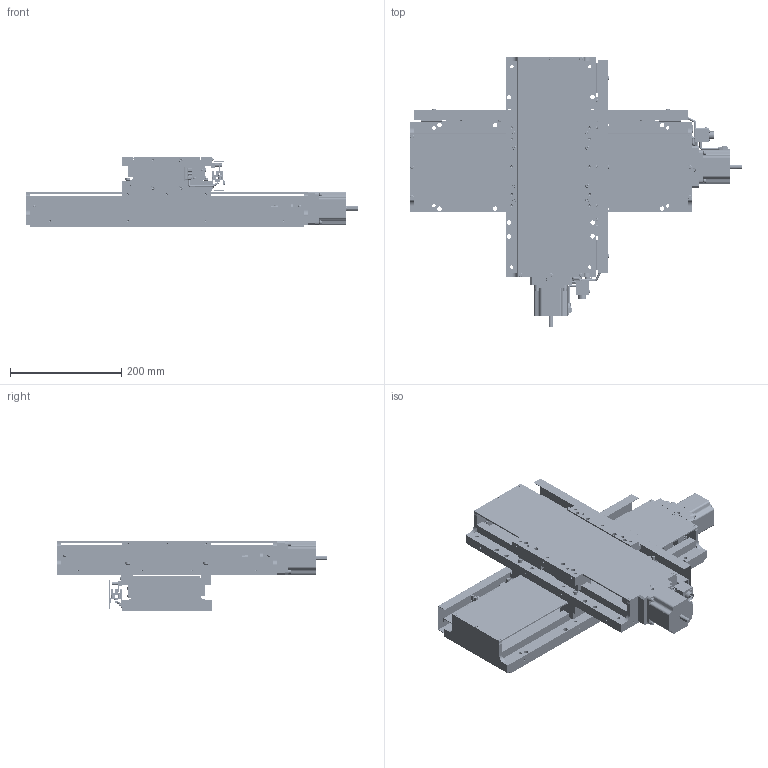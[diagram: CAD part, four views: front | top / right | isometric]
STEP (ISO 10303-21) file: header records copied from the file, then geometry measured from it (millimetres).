
FILE_DESCRIPTION( (''), '2;1');
FILE_NAME ('YA16F-L23201.stp','2021-01-05T15:28:23',(''),(''),'spGate 15.6.6','','');
FILE_SCHEMA (('AUTOMOTIVE_DESIGN'));
Length unit declared in the file: millimetre
Products named in the file (5): Assembly; YA16F-L23201-prt0; YA16F-L23201-prt1; YA16F-L23201-prt2; YA16F-L23201-prt3
Assembly tree (4 placements, depth 2):
  Assembly
    YA16F-L23201-prt0
    YA16F-L23201-prt1
    YA16F-L23201-prt2
    YA16F-L23201-prt3
Bounding box: 596.5 x 486.5 x 127 mm (x, y, z)
Volume: 4917660.9 mm3; surface area: 1162535.6 mm2
Topology: 4 solids, 4 shells, 5152 faces, 12831 edges, 7976 vertices
Faces by surface type: plane 3078, cylinder 1236, bspline 774, sphere 64
Entity records: 259388 total; most frequent: CARTESIAN_POINT 38376, ORIENTED_EDGE 25302, DIRECTION 23572, COLOUR_RGB 17807, PRESENTATION_STYLE_ASSIGNMENT 17807, STYLED_ITEM 17807, EDGE_CURVE 12651, DRAUGHTING_PRE_DEFINED_CURVE_FONT 12651
